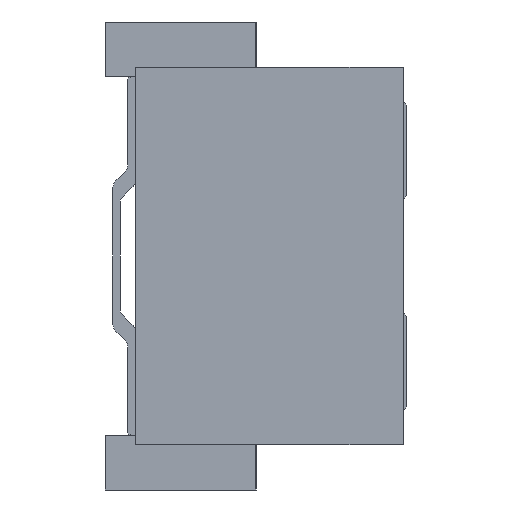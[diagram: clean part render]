
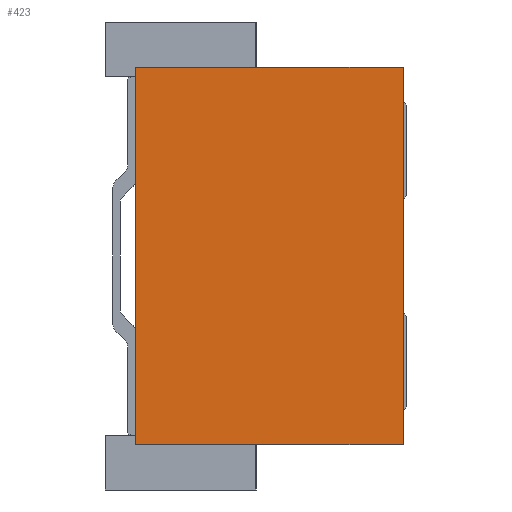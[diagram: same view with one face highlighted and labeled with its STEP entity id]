
A CAD part, left-side view. The second image highlights one B-rep face of the part: STEP entity #423.
In plain terms, the highlighted planar face has unit normal (-1, 0, 0).
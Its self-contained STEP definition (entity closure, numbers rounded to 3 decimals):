
#423 = ADVANCED_FACE( '', ( #1204 ), #1205, .F. );
#1204 = FACE_OUTER_BOUND( '', #2544, .T. );
#1205 = PLANE( '', #2545 );
#2544 = EDGE_LOOP( '', ( #4704, #4705, #4706, #4707 ) );
#2545 = AXIS2_PLACEMENT_3D( '', #4708, #4709, #4710 );
#4704 = ORIENTED_EDGE( '', *, *, #8809, .F. );
#4705 = ORIENTED_EDGE( '', *, *, #8810, .F. );
#4706 = ORIENTED_EDGE( '', *, *, #8811, .F. );
#4707 = ORIENTED_EDGE( '', *, *, #8805, .F. );
#4708 = CARTESIAN_POINT( '', ( -15., 0., 0. ) );
#4709 = DIRECTION( '', ( 1., 0., 0. ) );
#4710 = DIRECTION( '', ( 0., 0., -1. ) );
#8805 = EDGE_CURVE( '', #10633, #10634, #10635, .T. );
#8809 = EDGE_CURVE( '', #10641, #10633, #10642, .T. );
#8810 = EDGE_CURVE( '', #10643, #10641, #10644, .T. );
#8811 = EDGE_CURVE( '', #10634, #10643, #10645, .T. );
#10633 = VERTEX_POINT( '', #13367 );
#10634 = VERTEX_POINT( '', #13368 );
#10635 = LINE( '', #13369, #13370 );
#10641 = VERTEX_POINT( '', #13379 );
#10642 = LINE( '', #13380, #13381 );
#10643 = VERTEX_POINT( '', #13382 );
#10644 = LINE( '', #13383, #13384 );
#10645 = LINE( '', #13385, #13386 );
#13367 = CARTESIAN_POINT( '', ( -15., 40., -50. ) );
#13368 = CARTESIAN_POINT( '', ( -15., 40., 50. ) );
#13369 = CARTESIAN_POINT( '', ( -15., 40., -50. ) );
#13370 = VECTOR( '', #16497, 1. );
#13379 = CARTESIAN_POINT( '', ( -15., -31., -50. ) );
#13380 = CARTESIAN_POINT( '', ( -15., -31., -50. ) );
#13381 = VECTOR( '', #16501, 1. );
#13382 = CARTESIAN_POINT( '', ( -15., -31., 50. ) );
#13383 = CARTESIAN_POINT( '', ( -15., -31., 50. ) );
#13384 = VECTOR( '', #16502, 1. );
#13385 = CARTESIAN_POINT( '', ( -15., 40., 50. ) );
#13386 = VECTOR( '', #16503, 1. );
#16497 = DIRECTION( '', ( 0., 0., 1. ) );
#16501 = DIRECTION( '', ( 0., 1., 0. ) );
#16502 = DIRECTION( '', ( 0., 0., -1. ) );
#16503 = DIRECTION( '', ( 0., -1., 0. ) );
